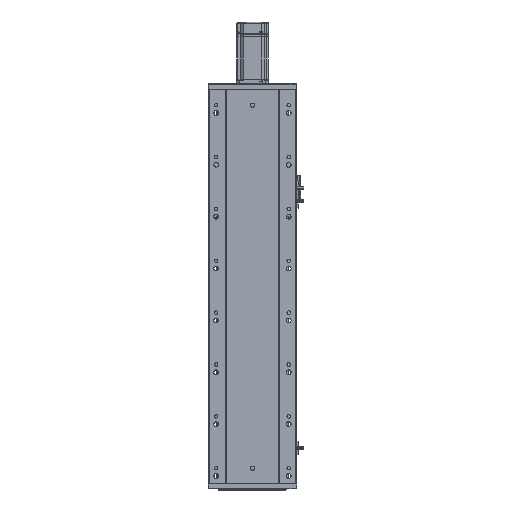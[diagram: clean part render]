
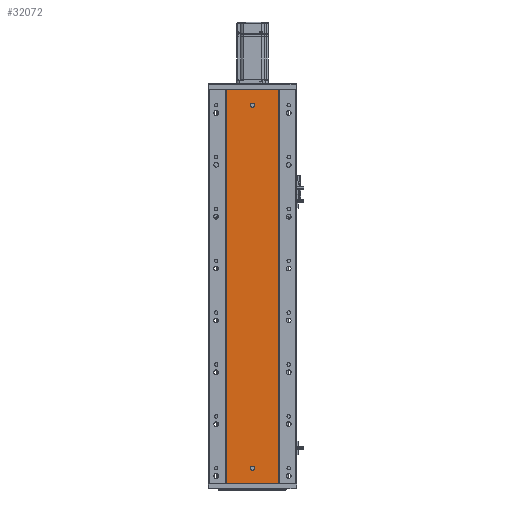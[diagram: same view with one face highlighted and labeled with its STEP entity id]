
A CAD part, front view. The second image highlights one B-rep face of the part: STEP entity #32072.
In plain terms, the highlighted planar face has unit normal (0, -1, 0).
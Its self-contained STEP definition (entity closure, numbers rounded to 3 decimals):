
#2162 = DIRECTION ( 'NONE',  ( 0., 0., 1. ) ) ;
#2164 = PLANE ( 'NONE',  #11553 ) ;
#2179 = DIRECTION ( 'NONE',  ( 0., 1., 0. ) ) ;
#2181 = CARTESIAN_POINT ( 'NONE',  ( 0., 79.476, 760. ) ) ;
#2933 = DIRECTION ( 'NONE',  ( 1., 0., 0. ) ) ;
#2947 = CARTESIAN_POINT ( 'NONE',  ( 0., 79.476, 760. ) ) ;
#2962 = CARTESIAN_POINT ( 'NONE',  ( 86.97, 79.476, 506.667 ) ) ;
#2978 = CARTESIAN_POINT ( 'NONE',  ( 86.97, 79.476, 760. ) ) ;
#2980 = CARTESIAN_POINT ( 'NONE',  ( 86.97, 79.476, 253.333 ) ) ;
#2989 = CARTESIAN_POINT ( 'NONE',  ( 86.97, 79.476, 0. ) ) ;
#3004 = CARTESIAN_POINT ( 'NONE',  ( 136.47, 79.476, 30. ) ) ;
#3040 = DIRECTION ( 'NONE',  ( 0., -1., 0. ) ) ;
#3059 = DIRECTION ( 'NONE',  ( 0., 0., -1. ) ) ;
#3185 = CARTESIAN_POINT ( 'NONE',  ( 0., 79.476, 0. ) ) ;
#3200 = DIRECTION ( 'NONE',  ( 1., 0., 0. ) ) ;
#3210 = CARTESIAN_POINT ( 'NONE',  ( 185.97, 79.476, 0. ) ) ;
#3226 = CARTESIAN_POINT ( 'NONE',  ( 185.97, 79.476, 506.667 ) ) ;
#3230 = CARTESIAN_POINT ( 'NONE',  ( 185.97, 79.476, 253.333 ) ) ;
#3255 = CARTESIAN_POINT ( 'NONE',  ( 185.97, 79.476, 760. ) ) ;
#3333 = DIRECTION ( 'NONE',  ( 0., -1., 0. ) ) ;
#3414 = CARTESIAN_POINT ( 'NONE',  ( 136.47, 79.476, 730. ) ) ;
#3421 = DIRECTION ( 'NONE',  ( 0., 0., -1. ) ) ;
#3471 = DIRECTION ( 'NONE',  ( 0., 0., -1. ) ) ;
#3489 = CARTESIAN_POINT ( 'NONE',  ( 136.47, 79.476, 30. ) ) ;
#3491 = DIRECTION ( 'NONE',  ( 0., 0., -1. ) ) ;
#3504 = DIRECTION ( 'NONE',  ( 0., -1., 0. ) ) ;
#3523 = CARTESIAN_POINT ( 'NONE',  ( 136.47, 79.476, 730. ) ) ;
#3541 = DIRECTION ( 'NONE',  ( 0., -1., 0. ) ) ;
#3864 = FACE_BOUND ( 'NONE', #18320, .T. ) ;
#3939 = FACE_OUTER_BOUND ( 'NONE', #52645, .T. ) ;
#3960 = FACE_BOUND ( 'NONE', #18297, .T. ) ;
#4390 = CIRCLE ( 'NONE', #11606, 4. ) ;
#4416 = CIRCLE ( 'NONE', #11614, 4. ) ;
#9179 = CARTESIAN_POINT ( 'NONE',  ( 136.47, 79.476, 34. ) ) ;
#9262 = CARTESIAN_POINT ( 'NONE',  ( 136.47, 79.476, 726. ) ) ;
#9274 = CARTESIAN_POINT ( 'NONE',  ( 136.47, 79.476, 26. ) ) ;
#9292 = CARTESIAN_POINT ( 'NONE',  ( 136.47, 79.476, 734. ) ) ;
#10497 = AXIS2_PLACEMENT_3D ( 'NONE', #3523, #3541, #3471 ) ;
#10515 = AXIS2_PLACEMENT_3D ( 'NONE', #3489, #3504, #3491 ) ;
#11553 = AXIS2_PLACEMENT_3D ( 'NONE', #2181, #2179, #2162 ) ;
#11606 = AXIS2_PLACEMENT_3D ( 'NONE', #3004, #3040, #3059 ) ;
#11614 = AXIS2_PLACEMENT_3D ( 'NONE', #3414, #3333, #3421 ) ;
#12620 = LINE ( 'NONE', #2947, #12624 ) ;
#12624 = VECTOR ( 'NONE', #2933, 1000. ) ;
#12760 = VECTOR ( 'NONE', #3200, 1000. ) ;
#12767 = LINE ( 'NONE', #3185, #12760 ) ;
#12833 = CIRCLE ( 'NONE', #10515, 4. ) ;
#12837 = CIRCLE ( 'NONE', #10497, 4. ) ;
#18297 = EDGE_LOOP ( 'NONE', ( #42799, #42783 ) ) ;
#18320 = EDGE_LOOP ( 'NONE', ( #42786, #42816 ) ) ;
#29785 = CARTESIAN_POINT ( 'NONE',  ( 185.97, 79.476, 0. ) ) ;
#29921 = VERTEX_POINT ( 'NONE', #9179 ) ;
#29928 = CARTESIAN_POINT ( 'NONE',  ( 185.97, 79.476, 760. ) ) ;
#29950 = CARTESIAN_POINT ( 'NONE',  ( 86.97, 79.476, 0. ) ) ;
#29969 = CARTESIAN_POINT ( 'NONE',  ( 86.97, 79.476, 760. ) ) ;
#29992 = VERTEX_POINT ( 'NONE', #9274 ) ;
#30003 = VERTEX_POINT ( 'NONE', #9262 ) ;
#30053 = VERTEX_POINT ( 'NONE', #9292 ) ;
#32072 = ADVANCED_FACE ( 'NONE', ( #3864, #3960, #3939 ), #2164, .F. ) ;
#33463 = EDGE_CURVE ( 'NONE', #29921, #29992, #4390, .T. ) ;
#33517 = EDGE_CURVE ( 'NONE', #30053, #30003, #4416, .T. ) ;
#37114 = EDGE_CURVE ( 'NONE', #56938, #57037, #12620, .T. ) ;
#37121 = EDGE_CURVE ( 'NONE', #56938, #56935, #41256, .T. ) ;
#37197 = EDGE_CURVE ( 'NONE', #56935, #56883, #12767, .T. ) ;
#37208 = EDGE_CURVE ( 'NONE', #57037, #56883, #41868, .T. ) ;
#37258 = EDGE_CURVE ( 'NONE', #30003, #30053, #12837, .T. ) ;
#37269 = EDGE_CURVE ( 'NONE', #29992, #29921, #12833, .T. ) ;
#41256 = B_SPLINE_CURVE_WITH_KNOTS ( 'NONE', 3,
 ( #2978, #2962, #2980, #2989 ),
 .UNSPECIFIED., .F., .F.,
 ( 4, 4 ),
 ( 0., 1. ),
 .UNSPECIFIED. ) ;
#41868 = B_SPLINE_CURVE_WITH_KNOTS ( 'NONE', 3,
 ( #3255, #3226, #3230, #3210 ),
 .UNSPECIFIED., .F., .F.,
 ( 4, 4 ),
 ( 0., 1. ),
 .UNSPECIFIED. ) ;
#42768 = ORIENTED_EDGE ( 'NONE', *, *, #37114, .F. ) ;
#42773 = ORIENTED_EDGE ( 'NONE', *, *, #37121, .T. ) ;
#42783 = ORIENTED_EDGE ( 'NONE', *, *, #33463, .F. ) ;
#42786 = ORIENTED_EDGE ( 'NONE', *, *, #37258, .F. ) ;
#42799 = ORIENTED_EDGE ( 'NONE', *, *, #37269, .F. ) ;
#42808 = ORIENTED_EDGE ( 'NONE', *, *, #37208, .F. ) ;
#42816 = ORIENTED_EDGE ( 'NONE', *, *, #33517, .F. ) ;
#42821 = ORIENTED_EDGE ( 'NONE', *, *, #37197, .T. ) ;
#52645 = EDGE_LOOP ( 'NONE', ( #42821, #42808, #42768, #42773 ) ) ;
#56883 = VERTEX_POINT ( 'NONE', #29785 ) ;
#56935 = VERTEX_POINT ( 'NONE', #29950 ) ;
#56938 = VERTEX_POINT ( 'NONE', #29969 ) ;
#57037 = VERTEX_POINT ( 'NONE', #29928 ) ;
